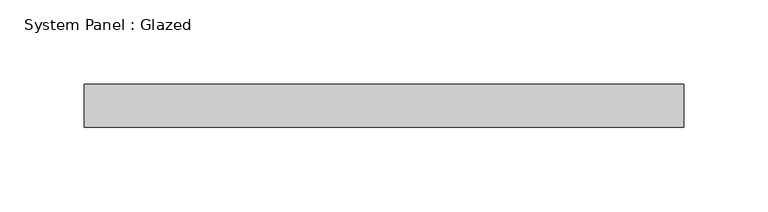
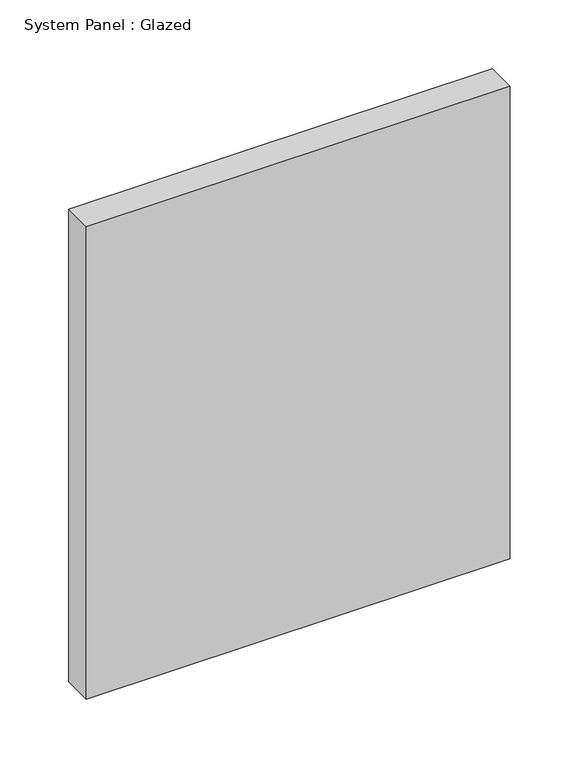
"""IFC4 building model written with IfcOpenShell, lengths in millimetres: plate geometry, System Panel : Glazed."""

from ifc_helpers import new_model, si_unit, origin, origin_with_axes, place, context, project, spatial, polyline, outline, extrude, source, transform, mapped, element, save


def system_panel_glazed_3fb58467(model_context):
    return source(origin(), model_context, "Body", "SweptSolid", [
        extrude(outline(polyline([(177.8000002, -44.45), (-177.8000002, -44.45), (-177.8000002, -19.05), (177.8000002, -19.05), (177.8000002, -44.45)])), origin_with_axes(), (0.0, 0.0, 1.0), 419.1),
    ])


if __name__ == "__main__":
    model = new_model("IFC4")
    model_context = context("Model", 3, world=origin())
    ifc_project = project(units=[si_unit("LENGTHUNIT", "METRE", prefix="MILLI")], contexts=[model_context])
    site = spatial("IfcSite", under=ifc_project)
    building = spatial("IfcBuilding", under=site)
    placement = place(None, origin())
    system_panel_glazed_shape = system_panel_glazed_3fb58467(model_context)
    element("IfcPlate", 1, ObjectType="System Panel : Glazed", at=placement, inside=building, context=model_context, shape_type="MappedRepresentation", body=[
        mapped(system_panel_glazed_shape, transform((0.0, 0.0, 0.0), x_axis=(1.0, 0.0, 0.0), y_axis=(0.0, 1.0, 0.0), z_axis=(0.0, 0.0, 1.0))),
    ])
    save(model, "model.ifc")
